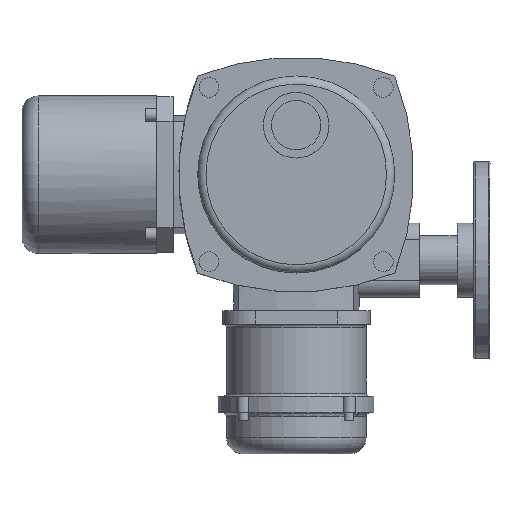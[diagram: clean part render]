
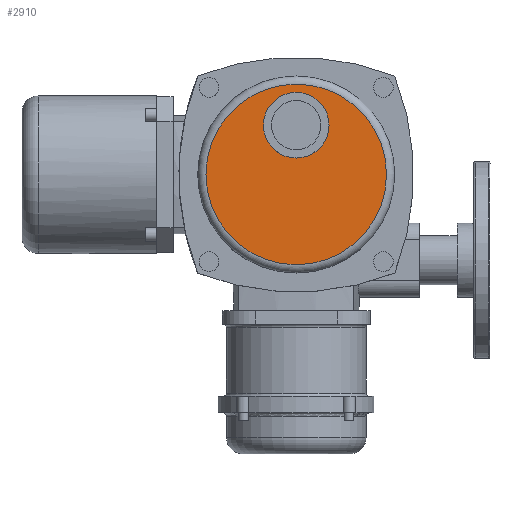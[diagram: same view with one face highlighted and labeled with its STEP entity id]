
A CAD part, top view. The second image highlights one B-rep face of the part: STEP entity #2910.
In plain terms, the highlighted planar face has unit normal (0, 0, 1).
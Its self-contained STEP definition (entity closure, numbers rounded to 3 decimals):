
#2910=ADVANCED_FACE('',(#5599,#5601),#5603,.T.);
#5599=FACE_BOUND('',#5600,.T.);
#5600=EDGE_LOOP('',(#7227));
#5601=FACE_BOUND('',#5602,.T.);
#5602=EDGE_LOOP('',(#7228));
#5603=PLANE('',#5604);
#5604=AXIS2_PLACEMENT_3D('',#5605,#5606,#5607);
#5605=CARTESIAN_POINT('',(5.,-8.,270.));
#5606=DIRECTION('',(0.,0.,1.));
#5607=DIRECTION('',(1.,0.,0.));
#7227=ORIENTED_EDGE('',*,*,#7968,.T.);
#7228=ORIENTED_EDGE('',*,*,#8029,.F.);
#7968=EDGE_CURVE('',#9184,#9184,#9185,.T.);
#8029=EDGE_CURVE('',#9276,#9276,#9277,.T.);
#9184=VERTEX_POINT('',#14659);
#9185=CIRCLE('',#14660,55.);
#9276=VERTEX_POINT('',#14916);
#9277=CIRCLE('',#14917,20.);
#14659=CARTESIAN_POINT('',(60.,-8.,270.));
#14660=AXIS2_PLACEMENT_3D('',#14661,#14662,#14663);
#14661=CARTESIAN_POINT('',(5.,-8.,270.));
#14662=DIRECTION('',(0.,0.,1.));
#14663=DIRECTION('',(1.,0.,0.));
#14916=CARTESIAN_POINT('',(25.,22.,270.));
#14917=AXIS2_PLACEMENT_3D('',#14918,#14919,#14920);
#14918=CARTESIAN_POINT('',(5.,22.,270.));
#14919=DIRECTION('',(0.,0.,1.));
#14920=DIRECTION('',(1.,0.,0.));
